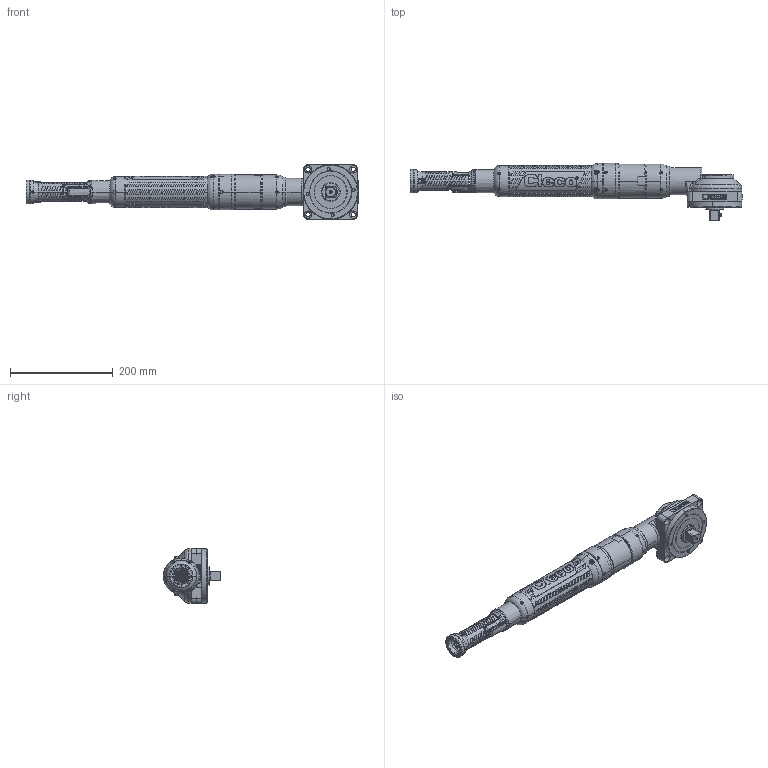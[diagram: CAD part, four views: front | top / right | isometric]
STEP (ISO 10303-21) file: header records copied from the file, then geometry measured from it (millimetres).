
FILE_DESCRIPTION((''),'2;1');
FILE_NAME('70EAN500RA6_SW0002','2021-07-14T',('E2E42'),(''),'CREO PARAMETRIC BY PTC INC, 2016050','CREO PARAMETRIC BY PTC INC, 2016050','');
FILE_SCHEMA(('CONFIG_CONTROL_DESIGN'));
Length unit declared in the file: millimetre
Products named in the file (1): 70EAN500RA6_SW0002
Bounding box: 644.74 x 111.1 x 106.24 mm (x, y, z)
Surface area: 175947.2 mm2 (no closed solid volume)
Topology: 0 solids, 208 shells, 2302 faces, 9845 edges, 7590 vertices
Faces by surface type: bspline 992, cylinder 647, plane 246, extrusion 152, torus 149, cone 106, sphere 10
Entity records: 158250 total; most frequent: CARTESIAN_POINT 91420, ORIENTED_EDGE 13585, DIRECTION 10210, EDGE_CURVE 9837, VERTEX_POINT 7590, B_SPLINE_CURVE_WITH_KNOTS 4773, AXIS2_PLACEMENT_3D 3684, VECTOR 2842
